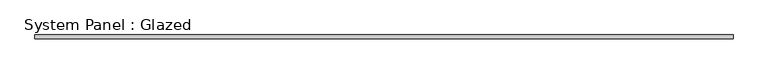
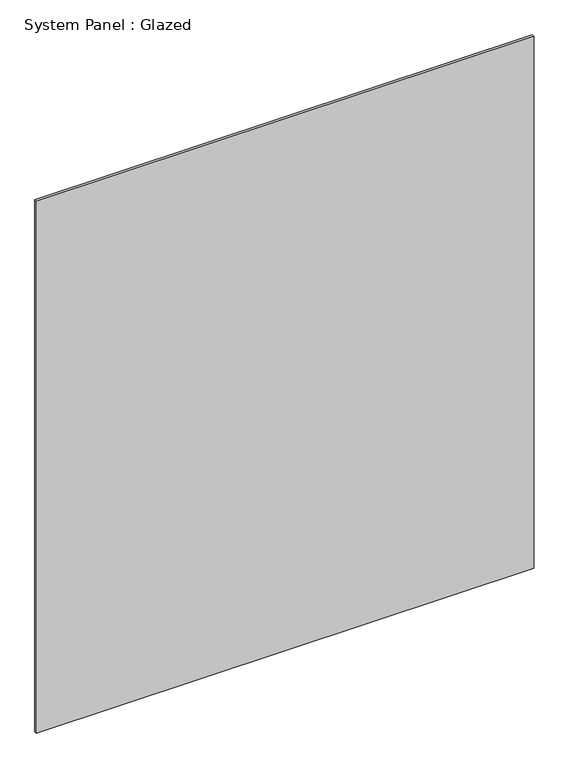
"""IFC4 building model written with IfcOpenShell, lengths in millimetres: plate geometry, System Panel : Glazed."""

from ifc_helpers import new_model, si_unit, origin, origin_with_axes, place, context, project, spatial, polyline, outline, extrude, source, transform, mapped, element, save


def system_panel_glazed_6845ef25(model_context):
    return source(origin(), model_context, "Body", "SweptSolid", [
        extrude(outline(polyline([(930.0, 0.0), (-930.0, 0.0), (-930.0, 10.0), (930.0, 10.0), (930.0, 0.0)])), origin_with_axes(), (0.0, 0.0, 1.0), 2100.0),
    ])


if __name__ == "__main__":
    model = new_model("IFC4")
    model_context = context("Model", 3, world=origin())
    ifc_project = project(units=[si_unit("LENGTHUNIT", "METRE", prefix="MILLI")], contexts=[model_context])
    site = spatial("IfcSite", under=ifc_project)
    building = spatial("IfcBuilding", under=site)
    placement = place(None, origin())
    system_panel_glazed_shape = system_panel_glazed_6845ef25(model_context)
    element("IfcPlate", 1, ObjectType="System Panel : Glazed", at=placement, inside=building, context=model_context, shape_type="MappedRepresentation", body=[
        mapped(system_panel_glazed_shape, transform((0.0, 0.0, 0.0), x_axis=(1.0, 0.0, 0.0), y_axis=(0.0, 1.0, 0.0), z_axis=(0.0, 0.0, 1.0))),
    ])
    save(model, "model.ifc")
